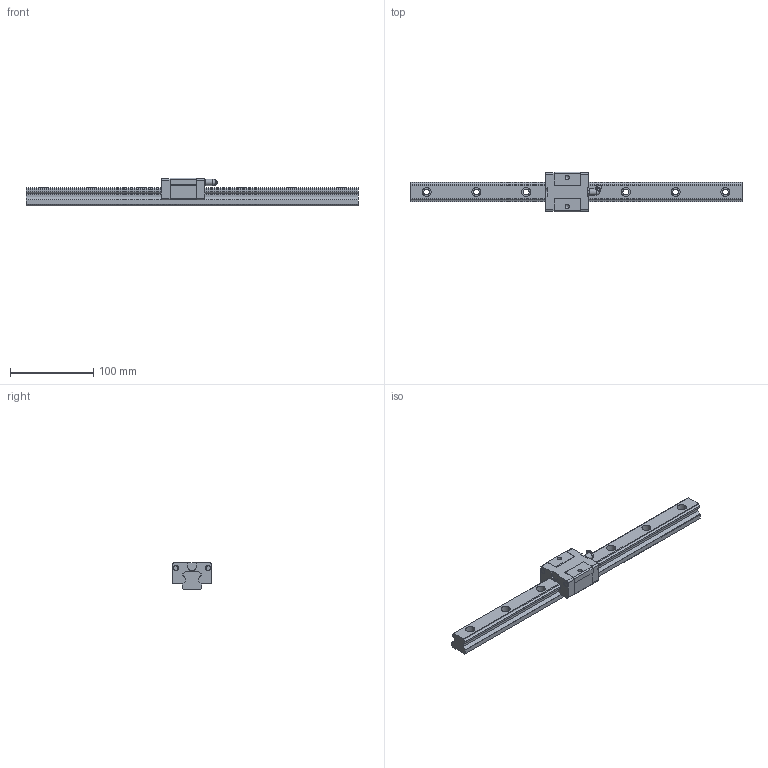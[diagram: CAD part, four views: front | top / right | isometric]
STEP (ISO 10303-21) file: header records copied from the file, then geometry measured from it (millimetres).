
FILE_DESCRIPTION((''),'2;1');
FILE_NAME('D:\製品 (図面)\カタログ用3D\リニアガイド関連\STEP形式\LGS-S\LGS25S.stp','2010-06-02T16:03:56',('Tsuchiya'),(''),'Autodesk Inventor 10','Autodesk Inventor 10','');
FILE_SCHEMA(('AUTOMOTIVE_DESIGN { 1 0 10303 214 1 1 1 1 }'));
Length unit declared in the file: millimetre
Products named in the file (3): LGS25S; LGS25S1; LGS25S2
Assembly tree (2 placements, depth 2):
  LGS25S
    LGS25S1
    LGS25S2
Bounding box: 400 x 48 x 33 mm (x, y, z)
Volume: 209674.1 mm3; surface area: 53239 mm2
Topology: 2 solids, 2 shells, 152 faces, 397 edges, 262 vertices
Faces by surface type: plane 80, bspline 37, cylinder 30, sphere 3, cone 2
Full cylindrical faces by diameter (mm): 5.5 x2, 6.5 x2, 7 x1, 7.7 x1
Entity records: 4988 total; most frequent: CARTESIAN_POINT 1377, ORIENTED_EDGE 704, DIRECTION 702, EDGE_CURVE 352, VERTEX_POINT 254, AXIS2_PLACEMENT_3D 234, VECTOR 234, LINE 234
